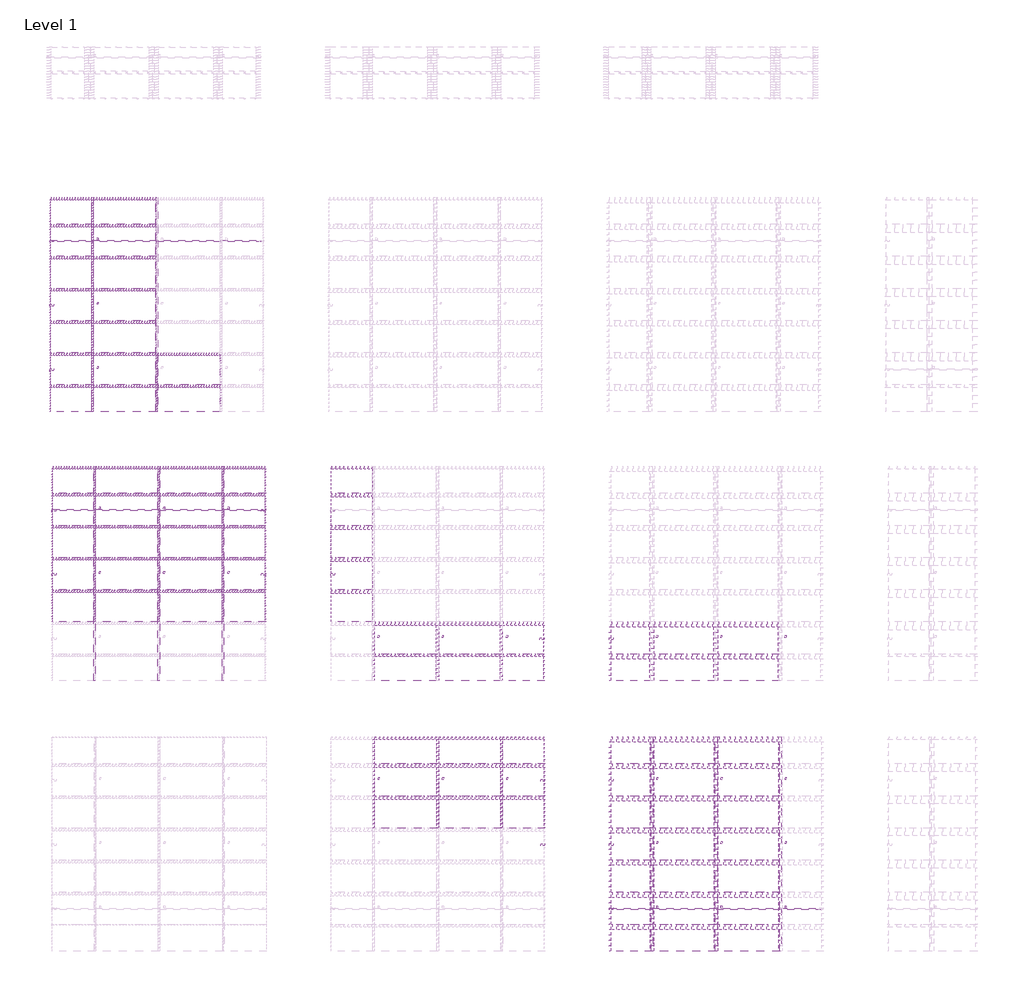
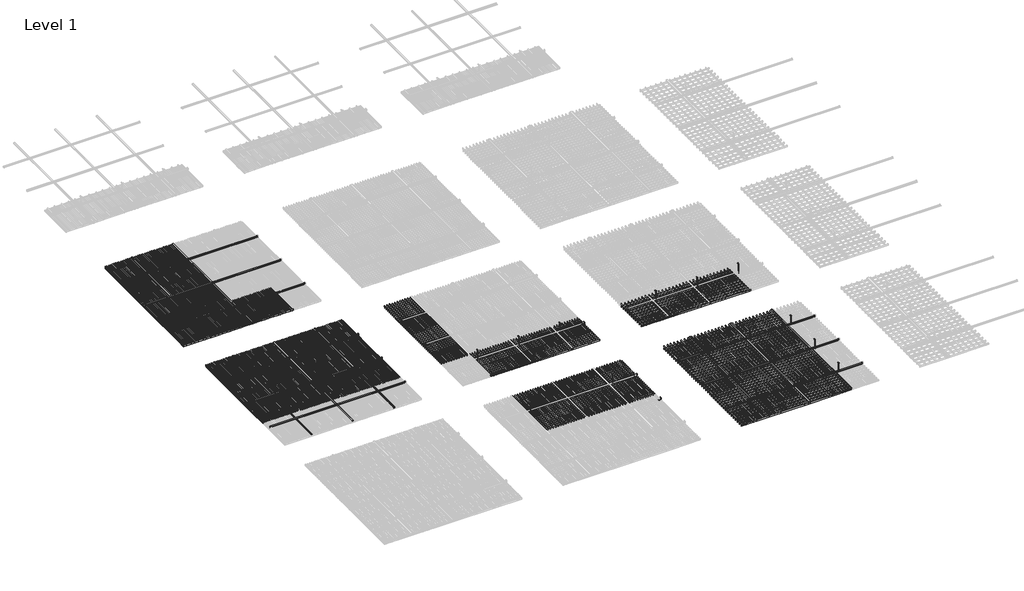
# One storey, part 11 of 32: 137 proxies.
"""IFC4 building model written with IfcOpenShell, lengths in millimetres."""

from ifc_helpers import new_model, si_unit, origin, place, context, project, spatial, transform, mapped, element, save
from components import generic_models_f4ce44e0, generic_models_4dc628ab, generic_models_507d97fd, generic_models_7b14c66c, generic_models_6a16b8e9, generic_models_9d6370f3, generic_models_ce95ff9e, generic_models_1b98d296, generic_models_f7fa241b, generic_models_ebbf936e, generic_models_45dab3f8, generic_models_b45cf8b7, generic_models_08d26d29, generic_models_ed86a27e, generic_models_70ed178c, generic_models_ec955ca2, generic_models_22f2553a, generic_models_145bddcd, generic_models_58272551, generic_models_706eee53, generic_models_723ebf24, generic_models_29d42799, generic_models_36cb1d09, generic_models_71c4b85c, generic_models_6bcacae0, generic_models_b7501322, generic_models_f3941969, generic_models_f6474ad0, generic_models_28f6a95c, generic_models_9e18e937

model = new_model("IFC4")

# Units and contexts
model_context = context("Model", 3, world=origin())
ifc_project = project(units=[si_unit("LENGTHUNIT", "METRE", prefix="MILLI")], contexts=[model_context])

# Site, building, storey
site = spatial("IfcSite", under=ifc_project)
building = spatial("IfcBuilding", under=site)
storey = spatial("IfcBuildingStorey", under=building, Name="Level 1", Elevation=0.0)

# Proxies
placement = place(None, origin())
generic_models_shape = generic_models_f4ce44e0(model_context)
element("IfcBuildingElementProxy", 1, Name="durlum_U94 : durlum_U94", ObjectType="durlum_U94 : durlum_U94", at=placement, inside=storey, context=model_context, shape_type="MappedRepresentation", body=[
    mapped(generic_models_shape, transform((35974.5159714, -2089.6204758, 3724.0), x_axis=(0.0, 1.0, 0.0), y_axis=(-1.0, 0.0, 0.0), z_axis=(0.0, 0.0, 1.0))),
])
element("IfcBuildingElementProxy", 2, Name="durlum_U94 : durlum_U94", ObjectType="durlum_U94 : durlum_U94", at=placement, inside=storey, context=model_context, shape_type="MappedRepresentation", body=[
    mapped(generic_models_shape, transform((34774.5159714, -2089.6204758, 3724.0), x_axis=(0.0, 1.0, 0.0), y_axis=(-1.0, 0.0, 0.0), z_axis=(0.0, 0.0, 1.0))),
])
element("IfcBuildingElementProxy", 3, Name="durlum_U94 : durlum_U94", ObjectType="durlum_U94 : durlum_U94", at=placement, inside=storey, context=model_context, shape_type="MappedRepresentation", body=[
    mapped(generic_models_shape, transform((36012.2666746, -7112.09776, 3724.0), x_axis=(0.0, 1.0, 0.0), y_axis=(-1.0, 0.0, 0.0), z_axis=(0.0, 0.0, 1.0))),
])
element("IfcBuildingElementProxy", 4, Name="durlum_U94 : durlum_U94", ObjectType="durlum_U94 : durlum_U94", at=placement, inside=storey, context=model_context, shape_type="MappedRepresentation", body=[
    mapped(generic_models_shape, transform((34812.2666746, -7112.09776, 3724.0), x_axis=(0.0, 1.0, 0.0), y_axis=(-1.0, 0.0, 0.0), z_axis=(0.0, 0.0, 1.0))),
])
element("IfcBuildingElementProxy", 5, Name="durlum_U94 : durlum_U94", ObjectType="durlum_U94 : durlum_U94", at=placement, inside=storey, context=model_context, shape_type="MappedRepresentation", body=[
    mapped(generic_models_shape, transform((37212.2666746, -7112.09776, 3724.0), x_axis=(0.0, 1.0, 0.0), y_axis=(-1.0, 0.0, 0.0), z_axis=(0.0, 0.0, 1.0))),
])
element("IfcBuildingElementProxy", 6, Name="durlum_U94 : durlum_U94", ObjectType="durlum_U94 : durlum_U94", at=placement, inside=storey, context=model_context, shape_type="MappedRepresentation", body=[
    mapped(generic_models_shape, transform((46418.6409714, -12159.3698822, 3724.0), x_axis=(0.0, 1.0, 0.0), y_axis=(-1.0, 0.0, 0.0), z_axis=(0.0, 0.0, 1.0))),
])
element("IfcBuildingElementProxy", 7, Name="durlum_U94 : durlum_U94", ObjectType="durlum_U94 : durlum_U94", at=placement, inside=storey, context=model_context, shape_type="MappedRepresentation", body=[
    mapped(generic_models_shape, transform((45218.6409714, -12159.3698822, 3724.0), x_axis=(0.0, 1.0, 0.0), y_axis=(-1.0, 0.0, 0.0), z_axis=(0.0, 0.0, 1.0))),
])
element("IfcBuildingElementProxy", 8, Name="durlum_U94 : durlum_U94", ObjectType="durlum_U94 : durlum_U94", at=placement, inside=storey, context=model_context, shape_type="MappedRepresentation", body=[
    mapped(generic_models_shape, transform((47618.6409714, -12159.3698822, 3724.0), x_axis=(0.0, 1.0, 0.0), y_axis=(-1.0, 0.0, 0.0), z_axis=(0.0, 0.0, 1.0))),
])
generic_models_2_shape = generic_models_4dc628ab(model_context)
element("IfcBuildingElementProxy", 9, Name="durlum_GEO_panel : durlum_GEO_4", ObjectType="durlum_GEO_panel : durlum_GEO_4", at=placement, inside=storey, context=model_context, shape_type="MappedRepresentation", body=[
    mapped(generic_models_2_shape, transform((35374.5159714, -2689.6204758, 3700.0), x_axis=(1.0, 0.0, 0.0), y_axis=(0.0, 1.0, 0.0), z_axis=(0.0, 0.0, 1.0))),
])
element("IfcBuildingElementProxy", 10, Name="durlum_GEO_panel : durlum_GEO_4", ObjectType="durlum_GEO_panel : durlum_GEO_4", at=placement, inside=storey, context=model_context, shape_type="MappedRepresentation", body=[
    mapped(generic_models_2_shape, transform((35374.5159714, -2089.6204758, 3700.0), x_axis=(1.0, 0.0, 0.0), y_axis=(0.0, 1.0, 0.0), z_axis=(0.0, 0.0, 1.0))),
])
element("IfcBuildingElementProxy", 11, Name="durlum_GEO_panel : durlum_GEO_4", ObjectType="durlum_GEO_panel : durlum_GEO_4", at=placement, inside=storey, context=model_context, shape_type="MappedRepresentation", body=[
    mapped(generic_models_2_shape, transform((35374.5159714, -1489.6204758, 3700.0), x_axis=(1.0, 0.0, 0.0), y_axis=(0.0, 1.0, 0.0), z_axis=(0.0, 0.0, 1.0))),
])
element("IfcBuildingElementProxy", 12, Name="durlum_GEO_panel : durlum_GEO_4", ObjectType="durlum_GEO_panel : durlum_GEO_4", at=placement, inside=storey, context=model_context, shape_type="MappedRepresentation", body=[
    mapped(generic_models_2_shape, transform((35374.5159714, -889.6204758, 3700.0), x_axis=(1.0, 0.0, 0.0), y_axis=(0.0, 1.0, 0.0), z_axis=(0.0, 0.0, 1.0))),
])
element("IfcBuildingElementProxy", 13, Name="durlum_GEO_panel : durlum_GEO_4", ObjectType="durlum_GEO_panel : durlum_GEO_4", at=placement, inside=storey, context=model_context, shape_type="MappedRepresentation", body=[
    mapped(generic_models_2_shape, transform((35374.5159714, -3289.6204758, 3700.0), x_axis=(1.0, 0.0, 0.0), y_axis=(0.0, 1.0, 0.0), z_axis=(0.0, 0.0, 1.0))),
])
element("IfcBuildingElementProxy", 14, Name="durlum_GEO_panel : durlum_GEO_4", ObjectType="durlum_GEO_panel : durlum_GEO_4", at=placement, inside=storey, context=model_context, shape_type="MappedRepresentation", body=[
    mapped(generic_models_2_shape, transform((36574.5159714, -3289.6204758, 3700.0), x_axis=(1.0, 0.0, 0.0), y_axis=(0.0, 1.0, 0.0), z_axis=(0.0, 0.0, 1.0))),
])
generic_models_3_shape = generic_models_507d97fd(model_context)
element("IfcBuildingElementProxy", 15, Name="durlum_GEO_panel : durlum_GEO_4_width_cut", ObjectType="durlum_GEO_panel : durlum_GEO_4_width_cut", at=placement, inside=storey, context=model_context, shape_type="MappedRepresentation", body=[
    mapped(generic_models_3_shape, transform((35374.5159714, -3839.6204758, 3700.0), x_axis=(1.0, 0.0, 0.0), y_axis=(0.0, 1.0, 0.0), z_axis=(0.0, 0.0, 1.0))),
])
element("IfcBuildingElementProxy", 16, Name="durlum_GEO_panel : durlum_GEO_4_width_cut", ObjectType="durlum_GEO_panel : durlum_GEO_4_width_cut", at=placement, inside=storey, context=model_context, shape_type="MappedRepresentation", body=[
    mapped(generic_models_3_shape, transform((35374.5159714, -339.6204758, 3700.0), x_axis=(1.0, 0.0, 0.0), y_axis=(0.0, 1.0, 0.0), z_axis=(0.0, 0.0, 1.0))),
])
element("IfcBuildingElementProxy", 17, Name="durlum_GEO_panel : durlum_GEO_4_width_cut", ObjectType="durlum_GEO_panel : durlum_GEO_4_width_cut", at=placement, inside=storey, context=model_context, shape_type="MappedRepresentation", body=[
    mapped(generic_models_3_shape, transform((36574.5159714, -3839.6204758, 3700.0), x_axis=(1.0, 0.0, 0.0), y_axis=(0.0, 1.0, 0.0), z_axis=(0.0, 0.0, 1.0))),
])
generic_models_4_shape = generic_models_7b14c66c(model_context)
element("IfcBuildingElementProxy", 18, Name="durlum_GEO_panel : durlum_GEO_9", ObjectType="durlum_GEO_panel : durlum_GEO_9", at=placement, inside=storey, context=model_context, shape_type="MappedRepresentation", body=[
    mapped(generic_models_4_shape, transform((35412.2666746, -7712.09776, 3700.0), x_axis=(1.0, 0.0, 0.0), y_axis=(0.0, 1.0, 0.0), z_axis=(0.0, 0.0, 1.0))),
])
element("IfcBuildingElementProxy", 19, Name="durlum_GEO_panel : durlum_GEO_9", ObjectType="durlum_GEO_panel : durlum_GEO_9", at=placement, inside=storey, context=model_context, shape_type="MappedRepresentation", body=[
    mapped(generic_models_4_shape, transform((36612.2666746, -7712.09776, 3700.0), x_axis=(1.0, 0.0, 0.0), y_axis=(0.0, 1.0, 0.0), z_axis=(0.0, 0.0, 1.0))),
])
element("IfcBuildingElementProxy", 20, Name="durlum_GEO_panel : durlum_GEO_9", ObjectType="durlum_GEO_panel : durlum_GEO_9", at=placement, inside=storey, context=model_context, shape_type="MappedRepresentation", body=[
    mapped(generic_models_4_shape, transform((35412.2666746, -7112.09776, 3700.0), x_axis=(1.0, 0.0, 0.0), y_axis=(0.0, 1.0, 0.0), z_axis=(0.0, 0.0, 1.0))),
])
element("IfcBuildingElementProxy", 21, Name="durlum_GEO_panel : durlum_GEO_9", ObjectType="durlum_GEO_panel : durlum_GEO_9", at=placement, inside=storey, context=model_context, shape_type="MappedRepresentation", body=[
    mapped(generic_models_4_shape, transform((36612.2666746, -7112.09776, 3700.0), x_axis=(1.0, 0.0, 0.0), y_axis=(0.0, 1.0, 0.0), z_axis=(0.0, 0.0, 1.0))),
])
element("IfcBuildingElementProxy", 22, Name="durlum_GEO_panel : durlum_GEO_9", ObjectType="durlum_GEO_panel : durlum_GEO_9", at=placement, inside=storey, context=model_context, shape_type="MappedRepresentation", body=[
    mapped(generic_models_4_shape, transform((35412.2666746, -6512.09776, 3700.0), x_axis=(1.0, 0.0, 0.0), y_axis=(0.0, 1.0, 0.0), z_axis=(0.0, 0.0, 1.0))),
])
element("IfcBuildingElementProxy", 23, Name="durlum_GEO_panel : durlum_GEO_9", ObjectType="durlum_GEO_panel : durlum_GEO_9", at=placement, inside=storey, context=model_context, shape_type="MappedRepresentation", body=[
    mapped(generic_models_4_shape, transform((36612.2666746, -6512.09776, 3700.0), x_axis=(1.0, 0.0, 0.0), y_axis=(0.0, 1.0, 0.0), z_axis=(0.0, 0.0, 1.0))),
])
element("IfcBuildingElementProxy", 24, Name="durlum_GEO_panel : durlum_GEO_9", ObjectType="durlum_GEO_panel : durlum_GEO_9", at=placement, inside=storey, context=model_context, shape_type="MappedRepresentation", body=[
    mapped(generic_models_4_shape, transform((35412.2666746, -5912.09776, 3700.0), x_axis=(1.0, 0.0, 0.0), y_axis=(0.0, 1.0, 0.0), z_axis=(0.0, 0.0, 1.0))),
])
element("IfcBuildingElementProxy", 25, Name="durlum_GEO_panel : durlum_GEO_9", ObjectType="durlum_GEO_panel : durlum_GEO_9", at=placement, inside=storey, context=model_context, shape_type="MappedRepresentation", body=[
    mapped(generic_models_4_shape, transform((36612.2666746, -5912.09776, 3700.0), x_axis=(1.0, 0.0, 0.0), y_axis=(0.0, 1.0, 0.0), z_axis=(0.0, 0.0, 1.0))),
])
generic_models_5_shape = generic_models_6a16b8e9(model_context)
element("IfcBuildingElementProxy", 26, Name="durlum_GEO_panel : durlum_GEO_9_width_cut", ObjectType="durlum_GEO_panel : durlum_GEO_9_width_cut", at=placement, inside=storey, context=model_context, shape_type="MappedRepresentation", body=[
    mapped(generic_models_5_shape, transform((35412.2666746, -5362.09776, 3700.0), x_axis=(1.0, 0.0, 0.0), y_axis=(0.0, 1.0, 0.0), z_axis=(0.0, 0.0, 1.0))),
])
element("IfcBuildingElementProxy", 27, Name="durlum_GEO_panel : durlum_GEO_9_width_cut", ObjectType="durlum_GEO_panel : durlum_GEO_9_width_cut", at=placement, inside=storey, context=model_context, shape_type="MappedRepresentation", body=[
    mapped(generic_models_5_shape, transform((36612.2666746, -5362.09776, 3700.0), x_axis=(1.0, 0.0, 0.0), y_axis=(0.0, 1.0, 0.0), z_axis=(0.0, 0.0, 1.0))),
])
generic_models_6_shape = generic_models_9d6370f3(model_context)
element("IfcBuildingElementProxy", 28, Name="durlum_GEO_panel : durlum_GEO_15", ObjectType="durlum_GEO_panel : durlum_GEO_15", at=placement, inside=storey, context=model_context, shape_type="MappedRepresentation", body=[
    mapped(generic_models_6_shape, transform((45818.6409714, -12759.3698822, 3700.0), x_axis=(1.0, 0.0, 0.0), y_axis=(0.0, 1.0, 0.0), z_axis=(0.0, 0.0, 1.0))),
])
element("IfcBuildingElementProxy", 29, Name="durlum_GEO_panel : durlum_GEO_15", ObjectType="durlum_GEO_panel : durlum_GEO_15", at=placement, inside=storey, context=model_context, shape_type="MappedRepresentation", body=[
    mapped(generic_models_6_shape, transform((47018.6409714, -12759.3698822, 3700.0), x_axis=(1.0, 0.0, 0.0), y_axis=(0.0, 1.0, 0.0), z_axis=(0.0, 0.0, 1.0))),
])
element("IfcBuildingElementProxy", 30, Name="durlum_GEO_panel : durlum_GEO_15", ObjectType="durlum_GEO_panel : durlum_GEO_15", at=placement, inside=storey, context=model_context, shape_type="MappedRepresentation", body=[
    mapped(generic_models_6_shape, transform((45818.6409714, -12159.3698822, 3700.0), x_axis=(1.0, 0.0, 0.0), y_axis=(0.0, 1.0, 0.0), z_axis=(0.0, 0.0, 1.0))),
])
element("IfcBuildingElementProxy", 31, Name="durlum_GEO_panel : durlum_GEO_15", ObjectType="durlum_GEO_panel : durlum_GEO_15", at=placement, inside=storey, context=model_context, shape_type="MappedRepresentation", body=[
    mapped(generic_models_6_shape, transform((47018.6409714, -12159.3698822, 3700.0), x_axis=(1.0, 0.0, 0.0), y_axis=(0.0, 1.0, 0.0), z_axis=(0.0, 0.0, 1.0))),
])
element("IfcBuildingElementProxy", 32, Name="durlum_GEO_panel : durlum_GEO_15", ObjectType="durlum_GEO_panel : durlum_GEO_15", at=placement, inside=storey, context=model_context, shape_type="MappedRepresentation", body=[
    mapped(generic_models_6_shape, transform((45818.6409714, -11559.3698822, 3700.0), x_axis=(1.0, 0.0, 0.0), y_axis=(0.0, 1.0, 0.0), z_axis=(0.0, 0.0, 1.0))),
])
element("IfcBuildingElementProxy", 33, Name="durlum_GEO_panel : durlum_GEO_15", ObjectType="durlum_GEO_panel : durlum_GEO_15", at=placement, inside=storey, context=model_context, shape_type="MappedRepresentation", body=[
    mapped(generic_models_6_shape, transform((47018.6409714, -11559.3698822, 3700.0), x_axis=(1.0, 0.0, 0.0), y_axis=(0.0, 1.0, 0.0), z_axis=(0.0, 0.0, 1.0))),
])
element("IfcBuildingElementProxy", 34, Name="durlum_GEO_panel : durlum_GEO_15", ObjectType="durlum_GEO_panel : durlum_GEO_15", at=placement, inside=storey, context=model_context, shape_type="MappedRepresentation", body=[
    mapped(generic_models_6_shape, transform((45818.6409714, -10959.3698822, 3700.0), x_axis=(1.0, 0.0, 0.0), y_axis=(0.0, 1.0, 0.0), z_axis=(0.0, 0.0, 1.0))),
])
element("IfcBuildingElementProxy", 35, Name="durlum_GEO_panel : durlum_GEO_15", ObjectType="durlum_GEO_panel : durlum_GEO_15", at=placement, inside=storey, context=model_context, shape_type="MappedRepresentation", body=[
    mapped(generic_models_6_shape, transform((47018.6409714, -10959.3698822, 3700.0), x_axis=(1.0, 0.0, 0.0), y_axis=(0.0, 1.0, 0.0), z_axis=(0.0, 0.0, 1.0))),
])
element("IfcBuildingElementProxy", 36, Name="durlum_GEO_panel : durlum_GEO_15", ObjectType="durlum_GEO_panel : durlum_GEO_15", at=placement, inside=storey, context=model_context, shape_type="MappedRepresentation", body=[
    mapped(generic_models_6_shape, transform((45818.6409714, -13359.3698822, 3700.0), x_axis=(1.0, 0.0, 0.0), y_axis=(0.0, 1.0, 0.0), z_axis=(0.0, 0.0, 1.0))),
])
element("IfcBuildingElementProxy", 37, Name="durlum_GEO_panel : durlum_GEO_15", ObjectType="durlum_GEO_panel : durlum_GEO_15", at=placement, inside=storey, context=model_context, shape_type="MappedRepresentation", body=[
    mapped(generic_models_6_shape, transform((47018.6409714, -13359.3698822, 3700.0), x_axis=(1.0, 0.0, 0.0), y_axis=(0.0, 1.0, 0.0), z_axis=(0.0, 0.0, 1.0))),
])
generic_models_7_shape = generic_models_ce95ff9e(model_context)
element("IfcBuildingElementProxy", 38, Name="durlum_GEO_panel : durlum_GEO_15_width_cut", ObjectType="durlum_GEO_panel : durlum_GEO_15_width_cut", at=placement, inside=storey, context=model_context, shape_type="MappedRepresentation", body=[
    mapped(generic_models_7_shape, transform((45818.6409714, -13909.3698822, 3700.0), x_axis=(1.0, 0.0, 0.0), y_axis=(0.0, 1.0, 0.0), z_axis=(0.0, 0.0, 1.0))),
])
element("IfcBuildingElementProxy", 39, Name="durlum_GEO_panel : durlum_GEO_15_width_cut", ObjectType="durlum_GEO_panel : durlum_GEO_15_width_cut", at=placement, inside=storey, context=model_context, shape_type="MappedRepresentation", body=[
    mapped(generic_models_7_shape, transform((45818.6409714, -10409.3698822, 3700.0), x_axis=(1.0, 0.0, 0.0), y_axis=(0.0, 1.0, 0.0), z_axis=(0.0, 0.0, 1.0))),
])
element("IfcBuildingElementProxy", 40, Name="durlum_GEO_panel : durlum_GEO_15_width_cut", ObjectType="durlum_GEO_panel : durlum_GEO_15_width_cut", at=placement, inside=storey, context=model_context, shape_type="MappedRepresentation", body=[
    mapped(generic_models_7_shape, transform((47018.6409714, -13909.3698822, 3700.0), x_axis=(1.0, 0.0, 0.0), y_axis=(0.0, 1.0, 0.0), z_axis=(0.0, 0.0, 1.0))),
])
element("IfcBuildingElementProxy", 41, Name="durlum_GEO_panel : durlum_GEO_15_width_cut", ObjectType="durlum_GEO_panel : durlum_GEO_15_width_cut", at=placement, inside=storey, context=model_context, shape_type="MappedRepresentation", body=[
    mapped(generic_models_7_shape, transform((47018.6409714, -10409.3698822, 3700.0), x_axis=(1.0, 0.0, 0.0), y_axis=(0.0, 1.0, 0.0), z_axis=(0.0, 0.0, 1.0))),
])
generic_models_8_shape = generic_models_1b98d296(model_context)
element("IfcBuildingElementProxy", 42, Name="durlum_GEO_panel : durlum_GEO_9", ObjectType="durlum_GEO_panel : durlum_GEO_9", at=placement, inside=storey, context=model_context, shape_type="MappedRepresentation", body=[
    mapped(generic_models_8_shape, transform((40612.2666746, -8312.09776, 3700.0), x_axis=(1.0, 0.0, 0.0), y_axis=(0.0, 1.0, 0.0), z_axis=(0.0, 0.0, 1.0))),
])
element("IfcBuildingElementProxy", 43, Name="durlum_GEO_panel : durlum_GEO_9", ObjectType="durlum_GEO_panel : durlum_GEO_9", at=placement, inside=storey, context=model_context, shape_type="MappedRepresentation", body=[
    mapped(generic_models_8_shape, transform((41812.2666746, -8312.09776, 3700.0), x_axis=(1.0, 0.0, 0.0), y_axis=(0.0, 1.0, 0.0), z_axis=(0.0, 0.0, 1.0))),
])
generic_models_9_shape = generic_models_f7fa241b(model_context)
element("IfcBuildingElementProxy", 44, Name="durlum_GEO_panel : durlum_GEO_9_width_cut", ObjectType="durlum_GEO_panel : durlum_GEO_9_width_cut", at=placement, inside=storey, context=model_context, shape_type="MappedRepresentation", body=[
    mapped(generic_models_9_shape, transform((40612.2666746, -8862.09776, 3700.0), x_axis=(1.0, 0.0, 0.0), y_axis=(0.0, 1.0, 0.0), z_axis=(0.0, 0.0, 1.0))),
])
element("IfcBuildingElementProxy", 45, Name="durlum_GEO_panel : durlum_GEO_9_width_cut", ObjectType="durlum_GEO_panel : durlum_GEO_9_width_cut", at=placement, inside=storey, context=model_context, shape_type="MappedRepresentation", body=[
    mapped(generic_models_9_shape, transform((41812.2666746, -8862.09776, 3700.0), x_axis=(1.0, 0.0, 0.0), y_axis=(0.0, 1.0, 0.0), z_axis=(0.0, 0.0, 1.0))),
])
generic_models_10_shape = generic_models_ebbf936e(model_context)
element("IfcBuildingElementProxy", 46, Name="durlum_GEO_panel : durlum_GEO_9", ObjectType="durlum_GEO_panel : durlum_GEO_9", at=placement, inside=storey, context=model_context, shape_type="MappedRepresentation", body=[
    mapped(generic_models_10_shape, transform((45812.2666746, -8312.09776, 3700.0), x_axis=(1.0, 0.0, 0.0), y_axis=(0.0, 1.0, 0.0), z_axis=(0.0, 0.0, 1.0))),
])
element("IfcBuildingElementProxy", 47, Name="durlum_GEO_panel : durlum_GEO_9", ObjectType="durlum_GEO_panel : durlum_GEO_9", at=placement, inside=storey, context=model_context, shape_type="MappedRepresentation", body=[
    mapped(generic_models_10_shape, transform((47012.2666746, -8312.09776, 3700.0), x_axis=(1.0, 0.0, 0.0), y_axis=(0.0, 1.0, 0.0), z_axis=(0.0, 0.0, 1.0))),
])
generic_models_11_shape = generic_models_45dab3f8(model_context)
element("IfcBuildingElementProxy", 48, Name="durlum_GEO_panel : durlum_GEO_9_width_cut", ObjectType="durlum_GEO_panel : durlum_GEO_9_width_cut", at=placement, inside=storey, context=model_context, shape_type="MappedRepresentation", body=[
    mapped(generic_models_11_shape, transform((45812.2666746, -8862.09776, 3700.0), x_axis=(1.0, 0.0, 0.0), y_axis=(0.0, 1.0, 0.0), z_axis=(0.0, 0.0, 1.0))),
])
element("IfcBuildingElementProxy", 49, Name="durlum_GEO_panel : durlum_GEO_9_width_cut", ObjectType="durlum_GEO_panel : durlum_GEO_9_width_cut", at=placement, inside=storey, context=model_context, shape_type="MappedRepresentation", body=[
    mapped(generic_models_11_shape, transform((47012.2666746, -8862.09776, 3700.0), x_axis=(1.0, 0.0, 0.0), y_axis=(0.0, 1.0, 0.0), z_axis=(0.0, 0.0, 1.0))),
])
generic_models_12_shape = generic_models_b45cf8b7(model_context)
element("IfcBuildingElementProxy", 50, Name="durlum_GEO_panel : durlum_GEO_15", ObjectType="durlum_GEO_panel : durlum_GEO_15", at=placement, inside=storey, context=model_context, shape_type="MappedRepresentation", body=[
    mapped(generic_models_12_shape, transform((40618.6409714, -11559.3698822, 3700.0), x_axis=(1.0, 0.0, 0.0), y_axis=(0.0, 1.0, 0.0), z_axis=(0.0, 0.0, 1.0))),
])
element("IfcBuildingElementProxy", 51, Name="durlum_GEO_panel : durlum_GEO_15", ObjectType="durlum_GEO_panel : durlum_GEO_15", at=placement, inside=storey, context=model_context, shape_type="MappedRepresentation", body=[
    mapped(generic_models_12_shape, transform((41818.6409714, -11559.3698822, 3700.0), x_axis=(1.0, 0.0, 0.0), y_axis=(0.0, 1.0, 0.0), z_axis=(0.0, 0.0, 1.0))),
])
element("IfcBuildingElementProxy", 52, Name="durlum_GEO_panel : durlum_GEO_15", ObjectType="durlum_GEO_panel : durlum_GEO_15", at=placement, inside=storey, context=model_context, shape_type="MappedRepresentation", body=[
    mapped(generic_models_12_shape, transform((40618.6409714, -10959.3698822, 3700.0), x_axis=(1.0, 0.0, 0.0), y_axis=(0.0, 1.0, 0.0), z_axis=(0.0, 0.0, 1.0))),
])
element("IfcBuildingElementProxy", 53, Name="durlum_GEO_panel : durlum_GEO_15", ObjectType="durlum_GEO_panel : durlum_GEO_15", at=placement, inside=storey, context=model_context, shape_type="MappedRepresentation", body=[
    mapped(generic_models_12_shape, transform((41818.6409714, -10959.3698822, 3700.0), x_axis=(1.0, 0.0, 0.0), y_axis=(0.0, 1.0, 0.0), z_axis=(0.0, 0.0, 1.0))),
])
generic_models_13_shape = generic_models_08d26d29(model_context)
element("IfcBuildingElementProxy", 54, Name="durlum_GEO_panel : durlum_GEO_15_width_cut", ObjectType="durlum_GEO_panel : durlum_GEO_15_width_cut", at=placement, inside=storey, context=model_context, shape_type="MappedRepresentation", body=[
    mapped(generic_models_13_shape, transform((40618.6409714, -10409.3698822, 3700.0), x_axis=(1.0, 0.0, 0.0), y_axis=(0.0, 1.0, 0.0), z_axis=(0.0, 0.0, 1.0))),
])
element("IfcBuildingElementProxy", 55, Name="durlum_GEO_panel : durlum_GEO_15_width_cut", ObjectType="durlum_GEO_panel : durlum_GEO_15_width_cut", at=placement, inside=storey, context=model_context, shape_type="MappedRepresentation", body=[
    mapped(generic_models_13_shape, transform((41818.6409714, -10409.3698822, 3700.0), x_axis=(1.0, 0.0, 0.0), y_axis=(0.0, 1.0, 0.0), z_axis=(0.0, 0.0, 1.0))),
])
generic_models_14_shape = generic_models_ed86a27e(model_context)
element("IfcBuildingElementProxy", 56, Name="durlum_GEO_4 : durlum_GEO_4", ObjectType="durlum_GEO_4 : durlum_GEO_4", at=placement, inside=storey, context=model_context, shape_type="MappedRepresentation", body=[
    mapped(generic_models_14_shape, transform((35974.5159714, -2089.6204758, 0.0), x_axis=(1.0, 0.0, 0.0), y_axis=(0.0, 1.0, 0.0), z_axis=(0.0, 0.0, 1.0))),
])
generic_models_15_shape = generic_models_70ed178c(model_context)
element("IfcBuildingElementProxy", 57, Name="durlum_GEO_panel : durlum_GEO_4_length_cut", ObjectType="durlum_GEO_panel : durlum_GEO_4_length_cut", at=placement, inside=storey, context=model_context, shape_type="MappedRepresentation", body=[
    mapped(generic_models_15_shape, transform((34374.2659714, -1489.6204758, 3700.0), x_axis=(1.0, 0.0, 0.0), y_axis=(0.0, 1.0, 0.0), z_axis=(0.0, 0.0, 1.0))),
])
element("IfcBuildingElementProxy", 58, Name="durlum_GEO_panel : durlum_GEO_4_length_cut", ObjectType="durlum_GEO_panel : durlum_GEO_4_length_cut", at=placement, inside=storey, context=model_context, shape_type="MappedRepresentation", body=[
    mapped(generic_models_15_shape, transform((34374.2659714, -2089.6204758, 3700.0), x_axis=(1.0, 0.0, 0.0), y_axis=(0.0, 1.0, 0.0), z_axis=(0.0, 0.0, 1.0))),
])
element("IfcBuildingElementProxy", 59, Name="durlum_GEO_panel : durlum_GEO_4_length_cut", ObjectType="durlum_GEO_panel : durlum_GEO_4_length_cut", at=placement, inside=storey, context=model_context, shape_type="MappedRepresentation", body=[
    mapped(generic_models_15_shape, transform((34374.2659714, -2689.6204758, 3700.0), x_axis=(1.0, 0.0, 0.0), y_axis=(0.0, 1.0, 0.0), z_axis=(0.0, 0.0, 1.0))),
])
element("IfcBuildingElementProxy", 60, Name="durlum_GEO_panel : durlum_GEO_4_length_cut", ObjectType="durlum_GEO_panel : durlum_GEO_4_length_cut", at=placement, inside=storey, context=model_context, shape_type="MappedRepresentation", body=[
    mapped(generic_models_15_shape, transform((34374.2659714, -889.6204758, 3700.0), x_axis=(1.0, 0.0, 0.0), y_axis=(0.0, 1.0, 0.0), z_axis=(0.0, 0.0, 1.0))),
])
element("IfcBuildingElementProxy", 61, Name="durlum_GEO_panel : durlum_GEO_4_length_cut", ObjectType="durlum_GEO_panel : durlum_GEO_4_length_cut", at=placement, inside=storey, context=model_context, shape_type="MappedRepresentation", body=[
    mapped(generic_models_15_shape, transform((34374.2659714, -3289.6204758, 3700.0), x_axis=(1.0, 0.0, 0.0), y_axis=(0.0, 1.0, 0.0), z_axis=(0.0, 0.0, 1.0))),
])
generic_models_16_shape = generic_models_ec955ca2(model_context)
element("IfcBuildingElementProxy", 62, Name="durlum_GEO_panel : durlum_GEO_4_corner_cut", ObjectType="durlum_GEO_panel : durlum_GEO_4_corner_cut", at=placement, inside=storey, context=model_context, shape_type="MappedRepresentation", body=[
    mapped(generic_models_16_shape, transform((34374.2659714, -339.6204758, 3700.0), x_axis=(1.0, 0.0, 0.0), y_axis=(0.0, 1.0, 0.0), z_axis=(0.0, 0.0, 1.0))),
])
element("IfcBuildingElementProxy", 63, Name="durlum_GEO_panel : durlum_GEO_4_corner_cut", ObjectType="durlum_GEO_panel : durlum_GEO_4_corner_cut", at=placement, inside=storey, context=model_context, shape_type="MappedRepresentation", body=[
    mapped(generic_models_16_shape, transform((34374.2659714, -3839.6204758, 3700.0), x_axis=(1.0, 0.0, 0.0), y_axis=(0.0, 1.0, 0.0), z_axis=(0.0, 0.0, 1.0))),
])
generic_models_17_shape = generic_models_22f2553a(model_context)
element("IfcBuildingElementProxy", 64, Name="durlum_GEO_9 : durlum_GEO_9", ObjectType="durlum_GEO_9 : durlum_GEO_9", at=placement, inside=storey, context=model_context, shape_type="MappedRepresentation", body=[
    mapped(generic_models_17_shape, transform((36012.2666746, -7112.09776, 0.0), x_axis=(1.0, 0.0, 0.0), y_axis=(0.0, 1.0, 0.0), z_axis=(0.0, 0.0, 1.0))),
])
generic_models_18_shape = generic_models_145bddcd(model_context)
element("IfcBuildingElementProxy", 65, Name="durlum_GEO_panel : durlum_GEO_9_length_cut", ObjectType="durlum_GEO_panel : durlum_GEO_9_length_cut", at=placement, inside=storey, context=model_context, shape_type="MappedRepresentation", body=[
    mapped(generic_models_18_shape, transform((34415.203823, -6512.09776, 3700.0), x_axis=(1.0, 0.0, 0.0), y_axis=(0.0, 1.0, 0.0), z_axis=(0.0, 0.0, 1.0))),
])
element("IfcBuildingElementProxy", 66, Name="durlum_GEO_panel : durlum_GEO_9_length_cut", ObjectType="durlum_GEO_panel : durlum_GEO_9_length_cut", at=placement, inside=storey, context=model_context, shape_type="MappedRepresentation", body=[
    mapped(generic_models_18_shape, transform((34415.203823, -7112.09776, 3700.0), x_axis=(1.0, 0.0, 0.0), y_axis=(0.0, 1.0, 0.0), z_axis=(0.0, 0.0, 1.0))),
])
element("IfcBuildingElementProxy", 67, Name="durlum_GEO_panel : durlum_GEO_9_length_cut", ObjectType="durlum_GEO_panel : durlum_GEO_9_length_cut", at=placement, inside=storey, context=model_context, shape_type="MappedRepresentation", body=[
    mapped(generic_models_18_shape, transform((34415.203823, -7712.09776, 3700.0), x_axis=(1.0, 0.0, 0.0), y_axis=(0.0, 1.0, 0.0), z_axis=(0.0, 0.0, 1.0))),
])
element("IfcBuildingElementProxy", 68, Name="durlum_GEO_panel : durlum_GEO_9_length_cut", ObjectType="durlum_GEO_panel : durlum_GEO_9_length_cut", at=placement, inside=storey, context=model_context, shape_type="MappedRepresentation", body=[
    mapped(generic_models_18_shape, transform((37609.3295262, -6512.09776, 3700.0), x_axis=(1.0, 0.0, 0.0), y_axis=(0.0, 1.0, 0.0), z_axis=(0.0, 0.0, 1.0))),
])
element("IfcBuildingElementProxy", 69, Name="durlum_GEO_panel : durlum_GEO_9_length_cut", ObjectType="durlum_GEO_panel : durlum_GEO_9_length_cut", at=placement, inside=storey, context=model_context, shape_type="MappedRepresentation", body=[
    mapped(generic_models_18_shape, transform((37609.3295262, -7112.09776, 3700.0), x_axis=(1.0, 0.0, 0.0), y_axis=(0.0, 1.0, 0.0), z_axis=(0.0, 0.0, 1.0))),
])
element("IfcBuildingElementProxy", 70, Name="durlum_GEO_panel : durlum_GEO_9_length_cut", ObjectType="durlum_GEO_panel : durlum_GEO_9_length_cut", at=placement, inside=storey, context=model_context, shape_type="MappedRepresentation", body=[
    mapped(generic_models_18_shape, transform((37609.3295262, -7712.09776, 3700.0), x_axis=(1.0, 0.0, 0.0), y_axis=(0.0, 1.0, 0.0), z_axis=(0.0, 0.0, 1.0))),
])
element("IfcBuildingElementProxy", 71, Name="durlum_GEO_panel : durlum_GEO_9_length_cut", ObjectType="durlum_GEO_panel : durlum_GEO_9_length_cut", at=placement, inside=storey, context=model_context, shape_type="MappedRepresentation", body=[
    mapped(generic_models_18_shape, transform((37609.3295262, -5912.09776, 3700.0), x_axis=(1.0, 0.0, 0.0), y_axis=(0.0, 1.0, 0.0), z_axis=(0.0, 0.0, 1.0))),
])
element("IfcBuildingElementProxy", 72, Name="durlum_GEO_panel : durlum_GEO_9_length_cut", ObjectType="durlum_GEO_panel : durlum_GEO_9_length_cut", at=placement, inside=storey, context=model_context, shape_type="MappedRepresentation", body=[
    mapped(generic_models_18_shape, transform((34415.203823, -5912.09776, 3700.0), x_axis=(1.0, 0.0, 0.0), y_axis=(0.0, 1.0, 0.0), z_axis=(0.0, 0.0, 1.0))),
])
generic_models_19_shape = generic_models_58272551(model_context)
element("IfcBuildingElementProxy", 73, Name="durlum_GEO_panel : durlum_GEO_9_corner_cut", ObjectType="durlum_GEO_panel : durlum_GEO_9_corner_cut", at=placement, inside=storey, context=model_context, shape_type="MappedRepresentation", body=[
    mapped(generic_models_19_shape, transform((37609.3295262, -5362.09776, 3700.0), x_axis=(1.0, 0.0, 0.0), y_axis=(0.0, 1.0, 0.0), z_axis=(0.0, 0.0, 1.0))),
])
element("IfcBuildingElementProxy", 74, Name="durlum_GEO_panel : durlum_GEO_9_corner_cut", ObjectType="durlum_GEO_panel : durlum_GEO_9_corner_cut", at=placement, inside=storey, context=model_context, shape_type="MappedRepresentation", body=[
    mapped(generic_models_19_shape, transform((34415.203823, -5362.09776, 3700.0), x_axis=(1.0, 0.0, 0.0), y_axis=(0.0, 1.0, 0.0), z_axis=(0.0, 0.0, 1.0))),
])
generic_models_20_shape = generic_models_706eee53(model_context)
element("IfcBuildingElementProxy", 75, Name="durlum_GEO_panel : durlum_GEO_9_length_cut", ObjectType="durlum_GEO_panel : durlum_GEO_9_length_cut", at=placement, inside=storey, context=model_context, shape_type="MappedRepresentation", body=[
    mapped(generic_models_20_shape, transform((39615.203823, -6512.09776, 3700.0), x_axis=(1.0, 0.0, 0.0), y_axis=(0.0, 1.0, 0.0), z_axis=(0.0, 0.0, 1.0))),
])
element("IfcBuildingElementProxy", 76, Name="durlum_GEO_panel : durlum_GEO_9_length_cut", ObjectType="durlum_GEO_panel : durlum_GEO_9_length_cut", at=placement, inside=storey, context=model_context, shape_type="MappedRepresentation", body=[
    mapped(generic_models_20_shape, transform((39615.203823, -7112.09776, 3700.0), x_axis=(1.0, 0.0, 0.0), y_axis=(0.0, 1.0, 0.0), z_axis=(0.0, 0.0, 1.0))),
])
element("IfcBuildingElementProxy", 77, Name="durlum_GEO_panel : durlum_GEO_9_length_cut", ObjectType="durlum_GEO_panel : durlum_GEO_9_length_cut", at=placement, inside=storey, context=model_context, shape_type="MappedRepresentation", body=[
    mapped(generic_models_20_shape, transform((39615.203823, -7712.09776, 3700.0), x_axis=(1.0, 0.0, 0.0), y_axis=(0.0, 1.0, 0.0), z_axis=(0.0, 0.0, 1.0))),
])
element("IfcBuildingElementProxy", 78, Name="durlum_GEO_panel : durlum_GEO_9_length_cut", ObjectType="durlum_GEO_panel : durlum_GEO_9_length_cut", at=placement, inside=storey, context=model_context, shape_type="MappedRepresentation", body=[
    mapped(generic_models_20_shape, transform((39615.203823, -5912.09776, 3700.0), x_axis=(1.0, 0.0, 0.0), y_axis=(0.0, 1.0, 0.0), z_axis=(0.0, 0.0, 1.0))),
])
element("IfcBuildingElementProxy", 79, Name="durlum_GEO_panel : durlum_GEO_9_length_cut", ObjectType="durlum_GEO_panel : durlum_GEO_9_length_cut", at=placement, inside=storey, context=model_context, shape_type="MappedRepresentation", body=[
    mapped(generic_models_20_shape, transform((42809.3295262, -8312.09776, 3700.0), x_axis=(1.0, 0.0, 0.0), y_axis=(0.0, 1.0, 0.0), z_axis=(0.0, 0.0, 1.0))),
])
generic_models_21_shape = generic_models_723ebf24(model_context)
element("IfcBuildingElementProxy", 80, Name="durlum_GEO_panel : durlum_GEO_9_corner_cut", ObjectType="durlum_GEO_panel : durlum_GEO_9_corner_cut", at=placement, inside=storey, context=model_context, shape_type="MappedRepresentation", body=[
    mapped(generic_models_21_shape, transform((39615.203823, -5362.09776, 3700.0), x_axis=(1.0, 0.0, 0.0), y_axis=(0.0, 1.0, 0.0), z_axis=(0.0, 0.0, 1.0))),
])
element("IfcBuildingElementProxy", 81, Name="durlum_GEO_panel : durlum_GEO_9_corner_cut", ObjectType="durlum_GEO_panel : durlum_GEO_9_corner_cut", at=placement, inside=storey, context=model_context, shape_type="MappedRepresentation", body=[
    mapped(generic_models_21_shape, transform((42809.3295262, -8862.09776, 3700.0), x_axis=(1.0, 0.0, 0.0), y_axis=(0.0, 1.0, 0.0), z_axis=(0.0, 0.0, 1.0))),
])
generic_models_22_shape = generic_models_29d42799(model_context)
element("IfcBuildingElementProxy", 82, Name="durlum_GEO_panel : durlum_GEO_15_length_cut", ObjectType="durlum_GEO_panel : durlum_GEO_15_length_cut", at=placement, inside=storey, context=model_context, shape_type="MappedRepresentation", body=[
    mapped(generic_models_22_shape, transform((42818.8909714, -11559.3698822, 3700.0), x_axis=(1.0, 0.0, 0.0), y_axis=(0.0, 1.0, 0.0), z_axis=(0.0, 0.0, 1.0))),
])
element("IfcBuildingElementProxy", 83, Name="durlum_GEO_panel : durlum_GEO_15_length_cut", ObjectType="durlum_GEO_panel : durlum_GEO_15_length_cut", at=placement, inside=storey, context=model_context, shape_type="MappedRepresentation", body=[
    mapped(generic_models_22_shape, transform((42818.8909714, -10959.3698822, 3700.0), x_axis=(1.0, 0.0, 0.0), y_axis=(0.0, 1.0, 0.0), z_axis=(0.0, 0.0, 1.0))),
])
generic_models_23_shape = generic_models_36cb1d09(model_context)
element("IfcBuildingElementProxy", 84, Name="durlum_GEO_panel : durlum_GEO_15_corner_cut", ObjectType="durlum_GEO_panel : durlum_GEO_15_corner_cut", at=placement, inside=storey, context=model_context, shape_type="MappedRepresentation", body=[
    mapped(generic_models_23_shape, transform((42818.8909714, -10409.3698822, 3700.0), x_axis=(1.0, 0.0, 0.0), y_axis=(0.0, 1.0, 0.0), z_axis=(0.0, 0.0, 1.0))),
])
element("IfcBuildingElementProxy", 85, Name="durlum_GEO_15 : durlum_GEO_15", ObjectType="durlum_GEO_15 : durlum_GEO_15", at=placement, inside=storey, context=model_context, shape_type="MappedRepresentation", body=[
    mapped(generic_models_14_shape, transform((46418.6409714, -12159.3698822, 0.0), x_axis=(1.0, 0.0, 0.0), y_axis=(0.0, 1.0, 0.0), z_axis=(0.0, 0.0, 1.0))),
])
generic_models_24_shape = generic_models_71c4b85c(model_context)
element("IfcBuildingElementProxy", 86, Name="durlum_GEO_panel : durlum_GEO_9_length_cut", ObjectType="durlum_GEO_panel : durlum_GEO_9_length_cut", at=placement, inside=storey, context=model_context, shape_type="MappedRepresentation", body=[
    mapped(generic_models_24_shape, transform((44815.203823, -8312.09776, 3700.0), x_axis=(1.0, 0.0, 0.0), y_axis=(0.0, 1.0, 0.0), z_axis=(0.0, 0.0, 1.0))),
])
generic_models_25_shape = generic_models_6bcacae0(model_context)
element("IfcBuildingElementProxy", 87, Name="durlum_GEO_panel : durlum_GEO_9_corner_cut", ObjectType="durlum_GEO_panel : durlum_GEO_9_corner_cut", at=placement, inside=storey, context=model_context, shape_type="MappedRepresentation", body=[
    mapped(generic_models_25_shape, transform((44815.203823, -8862.09776, 3700.0), x_axis=(1.0, 0.0, 0.0), y_axis=(0.0, 1.0, 0.0), z_axis=(0.0, 0.0, 1.0))),
])
generic_models_26_shape = generic_models_b7501322(model_context)
element("IfcBuildingElementProxy", 88, Name="durlum_GEO_panel : durlum_GEO_15_length_cut", ObjectType="durlum_GEO_panel : durlum_GEO_15_length_cut", at=placement, inside=storey, context=model_context, shape_type="MappedRepresentation", body=[
    mapped(generic_models_26_shape, transform((44818.3909714, -11559.3698822, 3700.0), x_axis=(1.0, 0.0, 0.0), y_axis=(0.0, 1.0, 0.0), z_axis=(0.0, 0.0, 1.0))),
])
element("IfcBuildingElementProxy", 89, Name="durlum_GEO_panel : durlum_GEO_15_length_cut", ObjectType="durlum_GEO_panel : durlum_GEO_15_length_cut", at=placement, inside=storey, context=model_context, shape_type="MappedRepresentation", body=[
    mapped(generic_models_26_shape, transform((44818.3909714, -12159.3698822, 3700.0), x_axis=(1.0, 0.0, 0.0), y_axis=(0.0, 1.0, 0.0), z_axis=(0.0, 0.0, 1.0))),
])
element("IfcBuildingElementProxy", 90, Name="durlum_GEO_panel : durlum_GEO_15_length_cut", ObjectType="durlum_GEO_panel : durlum_GEO_15_length_cut", at=placement, inside=storey, context=model_context, shape_type="MappedRepresentation", body=[
    mapped(generic_models_26_shape, transform((44818.3909714, -12759.3698822, 3700.0), x_axis=(1.0, 0.0, 0.0), y_axis=(0.0, 1.0, 0.0), z_axis=(0.0, 0.0, 1.0))),
])
element("IfcBuildingElementProxy", 91, Name="durlum_GEO_panel : durlum_GEO_15_length_cut", ObjectType="durlum_GEO_panel : durlum_GEO_15_length_cut", at=placement, inside=storey, context=model_context, shape_type="MappedRepresentation", body=[
    mapped(generic_models_26_shape, transform((44818.3909714, -10959.3698822, 3700.0), x_axis=(1.0, 0.0, 0.0), y_axis=(0.0, 1.0, 0.0), z_axis=(0.0, 0.0, 1.0))),
])
element("IfcBuildingElementProxy", 92, Name="durlum_GEO_panel : durlum_GEO_15_length_cut", ObjectType="durlum_GEO_panel : durlum_GEO_15_length_cut", at=placement, inside=storey, context=model_context, shape_type="MappedRepresentation", body=[
    mapped(generic_models_26_shape, transform((44818.3909714, -13359.3698822, 3700.0), x_axis=(1.0, 0.0, 0.0), y_axis=(0.0, 1.0, 0.0), z_axis=(0.0, 0.0, 1.0))),
])
generic_models_27_shape = generic_models_f3941969(model_context)
element("IfcBuildingElementProxy", 93, Name="durlum_GEO_panel : durlum_GEO_15_corner_cut", ObjectType="durlum_GEO_panel : durlum_GEO_15_corner_cut", at=placement, inside=storey, context=model_context, shape_type="MappedRepresentation", body=[
    mapped(generic_models_27_shape, transform((44818.3909714, -10409.3698822, 3700.0), x_axis=(1.0, 0.0, 0.0), y_axis=(0.0, 1.0, 0.0), z_axis=(0.0, 0.0, 1.0))),
])
element("IfcBuildingElementProxy", 94, Name="durlum_GEO_panel : durlum_GEO_15_corner_cut", ObjectType="durlum_GEO_panel : durlum_GEO_15_corner_cut", at=placement, inside=storey, context=model_context, shape_type="MappedRepresentation", body=[
    mapped(generic_models_27_shape, transform((44818.3909714, -13909.3698822, 3700.0), x_axis=(1.0, 0.0, 0.0), y_axis=(0.0, 1.0, 0.0), z_axis=(0.0, 0.0, 1.0))),
])
generic_models_28_shape = generic_models_f6474ad0(model_context)
element("IfcBuildingElementProxy", 95, Name="durlum_U1300 : durlum_U1300", ObjectType="durlum_U1300 : durlum_U1300", at=placement, inside=storey, context=model_context, shape_type="MappedRepresentation", body=[
    mapped(generic_models_28_shape, transform((34874.5159714, -2089.6204758, 2999.4124682), x_axis=(-1.0, 0.0, 0.0), y_axis=(0.0, -1.0, 0.0), z_axis=(0.0, 0.0, 1.0))),
])
element("IfcBuildingElementProxy", 96, Name="durlum_U1300 : durlum_U1300", ObjectType="durlum_U1300 : durlum_U1300", at=placement, inside=storey, context=model_context, shape_type="MappedRepresentation", body=[
    mapped(generic_models_28_shape, transform((34874.5159714, -889.6204758, 2999.4124682), x_axis=(-1.0, 0.0, 0.0), y_axis=(0.0, -1.0, 0.0), z_axis=(0.0, 0.0, 1.0))),
])
element("IfcBuildingElementProxy", 97, Name="durlum_U1300 : durlum_U1300", ObjectType="durlum_U1300 : durlum_U1300", at=placement, inside=storey, context=model_context, shape_type="MappedRepresentation", body=[
    mapped(generic_models_28_shape, transform((34874.5159714, -3289.6204758, 2999.4124682), x_axis=(-1.0, 0.0, 0.0), y_axis=(0.0, -1.0, 0.0), z_axis=(0.0, 0.0, 1.0))),
])
element("IfcBuildingElementProxy", 98, Name="durlum_U1300 : durlum_U1300", ObjectType="durlum_U1300 : durlum_U1300", at=placement, inside=storey, context=model_context, shape_type="MappedRepresentation", body=[
    mapped(generic_models_28_shape, transform((34912.2666746, -7112.09776, 2999.4124682), x_axis=(-1.0, 0.0, 0.0), y_axis=(0.0, -1.0, 0.0), z_axis=(0.0, 0.0, 1.0))),
])
element("IfcBuildingElementProxy", 99, Name="durlum_U1300 : durlum_U1300", ObjectType="durlum_U1300 : durlum_U1300", at=placement, inside=storey, context=model_context, shape_type="MappedRepresentation", body=[
    mapped(generic_models_28_shape, transform((37312.2666746, -7112.09776, 2999.4124682), x_axis=(-1.0, 0.0, 0.0), y_axis=(0.0, -1.0, 0.0), z_axis=(0.0, 0.0, 1.0))),
])
element("IfcBuildingElementProxy", 100, Name="durlum_U1300 : durlum_U1300", ObjectType="durlum_U1300 : durlum_U1300", at=placement, inside=storey, context=model_context, shape_type="MappedRepresentation", body=[
    mapped(generic_models_28_shape, transform((36112.2666746, -7112.09776, 2999.4124682), x_axis=(-1.0, 0.0, 0.0), y_axis=(0.0, -1.0, 0.0), z_axis=(0.0, 0.0, 1.0))),
])
element("IfcBuildingElementProxy", 101, Name="durlum_U1300 : durlum_U1300", ObjectType="durlum_U1300 : durlum_U1300", at=placement, inside=storey, context=model_context, shape_type="MappedRepresentation", body=[
    mapped(generic_models_28_shape, transform((34912.2666746, -5912.09776, 2999.4124682), x_axis=(-1.0, 0.0, 0.0), y_axis=(0.0, -1.0, 0.0), z_axis=(0.0, 0.0, 1.0))),
])
element("IfcBuildingElementProxy", 102, Name="durlum_U1300 : durlum_U1300", ObjectType="durlum_U1300 : durlum_U1300", at=placement, inside=storey, context=model_context, shape_type="MappedRepresentation", body=[
    mapped(generic_models_28_shape, transform((37312.2666746, -5912.09776, 2999.4124682), x_axis=(-1.0, 0.0, 0.0), y_axis=(0.0, -1.0, 0.0), z_axis=(0.0, 0.0, 1.0))),
])
element("IfcBuildingElementProxy", 103, Name="durlum_U1300 : durlum_U1300", ObjectType="durlum_U1300 : durlum_U1300", at=placement, inside=storey, context=model_context, shape_type="MappedRepresentation", body=[
    mapped(generic_models_28_shape, transform((36112.2666746, -5912.09776, 2999.4124682), x_axis=(-1.0, 0.0, 0.0), y_axis=(0.0, -1.0, 0.0), z_axis=(0.0, 0.0, 1.0))),
])
element("IfcBuildingElementProxy", 104, Name="durlum_U1300 : durlum_U1300", ObjectType="durlum_U1300 : durlum_U1300", at=placement, inside=storey, context=model_context, shape_type="MappedRepresentation", body=[
    mapped(generic_models_28_shape, transform((40112.2666746, -8312.09776, 2999.4124682), x_axis=(-1.0, 0.0, 0.0), y_axis=(0.0, -1.0, 0.0), z_axis=(0.0, 0.0, 1.0))),
])
element("IfcBuildingElementProxy", 105, Name="durlum_U1300 : durlum_U1300", ObjectType="durlum_U1300 : durlum_U1300", at=placement, inside=storey, context=model_context, shape_type="MappedRepresentation", body=[
    mapped(generic_models_28_shape, transform((42512.2666746, -8312.09776, 2999.4124682), x_axis=(-1.0, 0.0, 0.0), y_axis=(0.0, -1.0, 0.0), z_axis=(0.0, 0.0, 1.0))),
])
element("IfcBuildingElementProxy", 106, Name="durlum_U1300 : durlum_U1300", ObjectType="durlum_U1300 : durlum_U1300", at=placement, inside=storey, context=model_context, shape_type="MappedRepresentation", body=[
    mapped(generic_models_28_shape, transform((41312.2666746, -8312.09776, 2999.4124682), x_axis=(-1.0, 0.0, 0.0), y_axis=(0.0, -1.0, 0.0), z_axis=(0.0, 0.0, 1.0))),
])
element("IfcBuildingElementProxy", 107, Name="durlum_U1300 : durlum_U1300", ObjectType="durlum_U1300 : durlum_U1300", at=placement, inside=storey, context=model_context, shape_type="MappedRepresentation", body=[
    mapped(generic_models_28_shape, transform((40118.6409714, -10959.3698822, 2999.4124682), x_axis=(-1.0, 0.0, 0.0), y_axis=(0.0, -1.0, 0.0), z_axis=(0.0, 0.0, 1.0))),
])
element("IfcBuildingElementProxy", 108, Name="durlum_U1300 : durlum_U1300", ObjectType="durlum_U1300 : durlum_U1300", at=placement, inside=storey, context=model_context, shape_type="MappedRepresentation", body=[
    mapped(generic_models_28_shape, transform((42518.6409714, -10959.3698822, 2999.4124682), x_axis=(-1.0, 0.0, 0.0), y_axis=(0.0, -1.0, 0.0), z_axis=(0.0, 0.0, 1.0))),
])
element("IfcBuildingElementProxy", 109, Name="durlum_U1300 : durlum_U1300", ObjectType="durlum_U1300 : durlum_U1300", at=placement, inside=storey, context=model_context, shape_type="MappedRepresentation", body=[
    mapped(generic_models_28_shape, transform((41318.6409714, -10959.3698822, 2999.4124682), x_axis=(-1.0, 0.0, 0.0), y_axis=(0.0, -1.0, 0.0), z_axis=(0.0, 0.0, 1.0))),
])
element("IfcBuildingElementProxy", 110, Name="durlum_U1300 : durlum_U1300", ObjectType="durlum_U1300 : durlum_U1300", at=placement, inside=storey, context=model_context, shape_type="MappedRepresentation", body=[
    mapped(generic_models_28_shape, transform((45312.2666746, -8312.09776, 2999.4124682), x_axis=(-1.0, 0.0, 0.0), y_axis=(0.0, -1.0, 0.0), z_axis=(0.0, 0.0, 1.0))),
])
element("IfcBuildingElementProxy", 111, Name="durlum_U1300 : durlum_U1300", ObjectType="durlum_U1300 : durlum_U1300", at=placement, inside=storey, context=model_context, shape_type="MappedRepresentation", body=[
    mapped(generic_models_28_shape, transform((47712.2666746, -8312.09776, 2999.4124682), x_axis=(-1.0, 0.0, 0.0), y_axis=(0.0, -1.0, 0.0), z_axis=(0.0, 0.0, 1.0))),
])
element("IfcBuildingElementProxy", 112, Name="durlum_U1300 : durlum_U1300", ObjectType="durlum_U1300 : durlum_U1300", at=placement, inside=storey, context=model_context, shape_type="MappedRepresentation", body=[
    mapped(generic_models_28_shape, transform((46512.2666746, -8312.09776, 2999.4124682), x_axis=(-1.0, 0.0, 0.0), y_axis=(0.0, -1.0, 0.0), z_axis=(0.0, 0.0, 1.0))),
])
element("IfcBuildingElementProxy", 113, Name="durlum_U1300 : durlum_U1300", ObjectType="durlum_U1300 : durlum_U1300", at=placement, inside=storey, context=model_context, shape_type="MappedRepresentation", body=[
    mapped(generic_models_28_shape, transform((45318.6409714, -12159.3698822, 2999.4124682), x_axis=(-1.0, 0.0, 0.0), y_axis=(0.0, -1.0, 0.0), z_axis=(0.0, 0.0, 1.0))),
])
element("IfcBuildingElementProxy", 114, Name="durlum_U1300 : durlum_U1300", ObjectType="durlum_U1300 : durlum_U1300", at=placement, inside=storey, context=model_context, shape_type="MappedRepresentation", body=[
    mapped(generic_models_28_shape, transform((47718.6409714, -12159.3698822, 2999.4124682), x_axis=(-1.0, 0.0, 0.0), y_axis=(0.0, -1.0, 0.0), z_axis=(0.0, 0.0, 1.0))),
])
element("IfcBuildingElementProxy", 115, Name="durlum_U1300 : durlum_U1300", ObjectType="durlum_U1300 : durlum_U1300", at=placement, inside=storey, context=model_context, shape_type="MappedRepresentation", body=[
    mapped(generic_models_28_shape, transform((46518.6409714, -12159.3698822, 2999.4124682), x_axis=(-1.0, 0.0, 0.0), y_axis=(0.0, -1.0, 0.0), z_axis=(0.0, 0.0, 1.0))),
])
element("IfcBuildingElementProxy", 116, Name="durlum_U1300 : durlum_U1300", ObjectType="durlum_U1300 : durlum_U1300", at=placement, inside=storey, context=model_context, shape_type="MappedRepresentation", body=[
    mapped(generic_models_28_shape, transform((45318.6409714, -10959.3698822, 2999.4124682), x_axis=(-1.0, 0.0, 0.0), y_axis=(0.0, -1.0, 0.0), z_axis=(0.0, 0.0, 1.0))),
])
element("IfcBuildingElementProxy", 117, Name="durlum_U1300 : durlum_U1300", ObjectType="durlum_U1300 : durlum_U1300", at=placement, inside=storey, context=model_context, shape_type="MappedRepresentation", body=[
    mapped(generic_models_28_shape, transform((47718.6409714, -10959.3698822, 2999.4124682), x_axis=(-1.0, 0.0, 0.0), y_axis=(0.0, -1.0, 0.0), z_axis=(0.0, 0.0, 1.0))),
])
element("IfcBuildingElementProxy", 118, Name="durlum_U1300 : durlum_U1300", ObjectType="durlum_U1300 : durlum_U1300", at=placement, inside=storey, context=model_context, shape_type="MappedRepresentation", body=[
    mapped(generic_models_28_shape, transform((46518.6409714, -10959.3698822, 2999.4124682), x_axis=(-1.0, 0.0, 0.0), y_axis=(0.0, -1.0, 0.0), z_axis=(0.0, 0.0, 1.0))),
])
element("IfcBuildingElementProxy", 119, Name="durlum_U1300 : durlum_U1300", ObjectType="durlum_U1300 : durlum_U1300", at=placement, inside=storey, context=model_context, shape_type="MappedRepresentation", body=[
    mapped(generic_models_28_shape, transform((45318.6409714, -13359.3698822, 2999.4124682), x_axis=(-1.0, 0.0, 0.0), y_axis=(0.0, -1.0, 0.0), z_axis=(0.0, 0.0, 1.0))),
])
element("IfcBuildingElementProxy", 120, Name="durlum_U1300 : durlum_U1300", ObjectType="durlum_U1300 : durlum_U1300", at=placement, inside=storey, context=model_context, shape_type="MappedRepresentation", body=[
    mapped(generic_models_28_shape, transform((47718.6409714, -13359.3698822, 2999.4124682), x_axis=(-1.0, 0.0, 0.0), y_axis=(0.0, -1.0, 0.0), z_axis=(0.0, 0.0, 1.0))),
])
element("IfcBuildingElementProxy", 121, Name="durlum_U1300 : durlum_U1300", ObjectType="durlum_U1300 : durlum_U1300", at=placement, inside=storey, context=model_context, shape_type="MappedRepresentation", body=[
    mapped(generic_models_28_shape, transform((46518.6409714, -13359.3698822, 2999.4124682), x_axis=(-1.0, 0.0, 0.0), y_axis=(0.0, -1.0, 0.0), z_axis=(0.0, 0.0, 1.0))),
])
generic_models_29_shape = generic_models_28f6a95c(model_context)
element("IfcBuildingElementProxy", 122, Name="durlum_U1042 : durlum_U1042", ObjectType="durlum_U1042 : durlum_U1042", at=placement, inside=storey, context=model_context, shape_type="MappedRepresentation", body=[
    mapped(generic_models_29_shape, transform((33974.5159714, -2104.6204758, 3754.0), x_axis=(0.0, -1.0, 0.0), y_axis=(1.0, 0.0, 0.0), z_axis=(0.0, 0.0, 1.0))),
])
element("IfcBuildingElementProxy", 123, Name="durlum_U1042 : durlum_U1042", ObjectType="durlum_U1042 : durlum_U1042", at=placement, inside=storey, context=model_context, shape_type="MappedRepresentation", body=[
    mapped(generic_models_29_shape, transform((33974.5159714, -904.6204758, 3754.0), x_axis=(0.0, -1.0, 0.0), y_axis=(1.0, 0.0, 0.0), z_axis=(0.0, 0.0, 1.0))),
])
element("IfcBuildingElementProxy", 124, Name="durlum_U1042 : durlum_U1042", ObjectType="durlum_U1042 : durlum_U1042", at=placement, inside=storey, context=model_context, shape_type="MappedRepresentation", body=[
    mapped(generic_models_29_shape, transform((33974.5159714, -3304.6204758, 3754.0), x_axis=(0.0, -1.0, 0.0), y_axis=(1.0, 0.0, 0.0), z_axis=(0.0, 0.0, 1.0))),
])
element("IfcBuildingElementProxy", 125, Name="durlum_U1042 : durlum_U1042", ObjectType="durlum_U1042 : durlum_U1042", at=placement, inside=storey, context=model_context, shape_type="MappedRepresentation", body=[
    mapped(generic_models_29_shape, transform((34018.6409714, -7127.09776, 3754.0), x_axis=(0.0, -1.0, 0.0), y_axis=(1.0, 0.0, 0.0), z_axis=(0.0, 0.0, 1.0))),
])
element("IfcBuildingElementProxy", 126, Name="durlum_U1042 : durlum_U1042", ObjectType="durlum_U1042 : durlum_U1042", at=placement, inside=storey, context=model_context, shape_type="MappedRepresentation", body=[
    mapped(generic_models_29_shape, transform((34018.6409714, -5927.09776, 3754.0), x_axis=(0.0, -1.0, 0.0), y_axis=(1.0, 0.0, 0.0), z_axis=(0.0, 0.0, 1.0))),
])
element("IfcBuildingElementProxy", 127, Name="durlum_U1042 : durlum_U1042", ObjectType="durlum_U1042 : durlum_U1042", at=placement, inside=storey, context=model_context, shape_type="MappedRepresentation", body=[
    mapped(generic_models_29_shape, transform((39218.6409714, -7127.09776, 3754.0), x_axis=(0.0, -1.0, 0.0), y_axis=(1.0, 0.0, 0.0), z_axis=(0.0, 0.0, 1.0))),
])
element("IfcBuildingElementProxy", 128, Name="durlum_U1042 : durlum_U1042", ObjectType="durlum_U1042 : durlum_U1042", at=placement, inside=storey, context=model_context, shape_type="MappedRepresentation", body=[
    mapped(generic_models_29_shape, transform((39218.6409714, -5927.09776, 3754.0), x_axis=(0.0, -1.0, 0.0), y_axis=(1.0, 0.0, 0.0), z_axis=(0.0, 0.0, 1.0))),
])
element("IfcBuildingElementProxy", 129, Name="durlum_U1042 : durlum_U1042", ObjectType="durlum_U1042 : durlum_U1042", at=placement, inside=storey, context=model_context, shape_type="MappedRepresentation", body=[
    mapped(generic_models_29_shape, transform((44418.6409714, -8327.09776, 3754.0), x_axis=(0.0, -1.0, 0.0), y_axis=(1.0, 0.0, 0.0), z_axis=(0.0, 0.0, 1.0))),
])
element("IfcBuildingElementProxy", 130, Name="durlum_U1042 : durlum_U1042", ObjectType="durlum_U1042 : durlum_U1042", at=placement, inside=storey, context=model_context, shape_type="MappedRepresentation", body=[
    mapped(generic_models_29_shape, transform((44418.6409714, -12174.3698822, 3754.0), x_axis=(0.0, -1.0, 0.0), y_axis=(1.0, 0.0, 0.0), z_axis=(0.0, 0.0, 1.0))),
])
element("IfcBuildingElementProxy", 131, Name="durlum_U1042 : durlum_U1042", ObjectType="durlum_U1042 : durlum_U1042", at=placement, inside=storey, context=model_context, shape_type="MappedRepresentation", body=[
    mapped(generic_models_29_shape, transform((44418.6409714, -10974.3698822, 3754.0), x_axis=(0.0, -1.0, 0.0), y_axis=(1.0, 0.0, 0.0), z_axis=(0.0, 0.0, 1.0))),
])
element("IfcBuildingElementProxy", 132, Name="durlum_U1042 : durlum_U1042", ObjectType="durlum_U1042 : durlum_U1042", at=placement, inside=storey, context=model_context, shape_type="MappedRepresentation", body=[
    mapped(generic_models_29_shape, transform((44418.6409714, -13374.3698822, 3754.0), x_axis=(0.0, -1.0, 0.0), y_axis=(1.0, 0.0, 0.0), z_axis=(0.0, 0.0, 1.0))),
])
generic_models_30_shape = generic_models_9e18e937(model_context)
element("IfcBuildingElementProxy", 133, Name="durlum_U1042 : durlum_U1042", ObjectType="durlum_U1042 : durlum_U1042", at=placement, inside=storey, context=model_context, shape_type="MappedRepresentation", body=[
    mapped(generic_models_30_shape, transform((38005.8923778, -7127.09776, 3754.0), x_axis=(0.0, -1.0, 0.0), y_axis=(1.0, 0.0, 0.0), z_axis=(0.0, 0.0, 1.0))),
])
element("IfcBuildingElementProxy", 134, Name="durlum_U1042 : durlum_U1042", ObjectType="durlum_U1042 : durlum_U1042", at=placement, inside=storey, context=model_context, shape_type="MappedRepresentation", body=[
    mapped(generic_models_30_shape, transform((38005.8923778, -5927.09776, 3754.0), x_axis=(0.0, -1.0, 0.0), y_axis=(1.0, 0.0, 0.0), z_axis=(0.0, 0.0, 1.0))),
])
element("IfcBuildingElementProxy", 135, Name="durlum_U1042 : durlum_U1042", ObjectType="durlum_U1042 : durlum_U1042", at=placement, inside=storey, context=model_context, shape_type="MappedRepresentation", body=[
    mapped(generic_models_30_shape, transform((43205.8923778, -8327.09776, 3754.0), x_axis=(0.0, -1.0, 0.0), y_axis=(1.0, 0.0, 0.0), z_axis=(0.0, 0.0, 1.0))),
])
element("IfcBuildingElementProxy", 136, Name="durlum_U1042 : durlum_U1042", ObjectType="durlum_U1042 : durlum_U1042", at=placement, inside=storey, context=model_context, shape_type="MappedRepresentation", body=[
    mapped(generic_models_30_shape, transform((43218.6409714, -12174.3698822, 3754.0), x_axis=(0.0, -1.0, 0.0), y_axis=(1.0, 0.0, 0.0), z_axis=(0.0, 0.0, 1.0))),
])
element("IfcBuildingElementProxy", 137, Name="durlum_U1042 : durlum_U1042", ObjectType="durlum_U1042 : durlum_U1042", at=placement, inside=storey, context=model_context, shape_type="MappedRepresentation", body=[
    mapped(generic_models_30_shape, transform((43218.6409714, -10974.3698822, 3754.0), x_axis=(0.0, -1.0, 0.0), y_axis=(1.0, 0.0, 0.0), z_axis=(0.0, 0.0, 1.0))),
])

save(model, "model.ifc")
